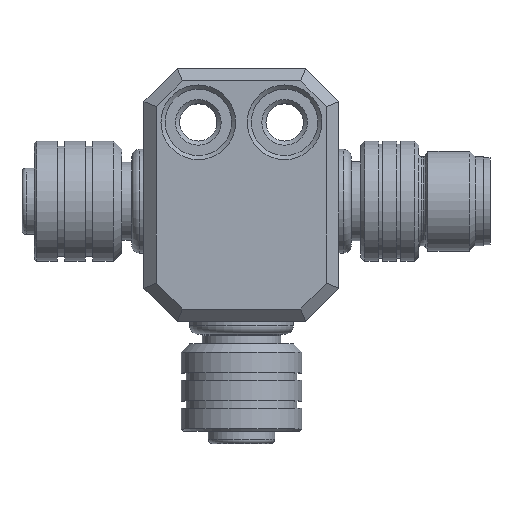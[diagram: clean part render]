
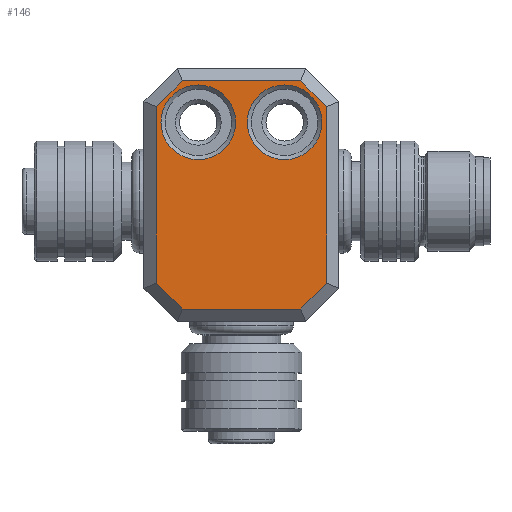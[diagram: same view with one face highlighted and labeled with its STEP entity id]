
A CAD part, top view. The second image highlights one B-rep face of the part: STEP entity #146.
In plain terms, the highlighted planar face has unit normal (0, 0, 1).
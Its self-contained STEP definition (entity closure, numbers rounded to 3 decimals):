
#146 = ADVANCED_FACE( '', ( #415, #416, #417 ), #418, .T. );
#415 = FACE_BOUND( '', #805, .T. );
#416 = FACE_OUTER_BOUND( '', #806, .T. );
#417 = FACE_BOUND( '', #807, .T. );
#418 = PLANE( '', #808 );
#805 = EDGE_LOOP( '', ( #1401 ) );
#806 = EDGE_LOOP( '', ( #1402, #1403, #1404, #1405, #1406, #1407, #1408, #1409 ) );
#807 = EDGE_LOOP( '', ( #1410 ) );
#808 = AXIS2_PLACEMENT_3D( '', #1411, #1412, #1413 );
#1401 = ORIENTED_EDGE( '', *, *, #1886, .F. );
#1402 = ORIENTED_EDGE( '', *, *, #1933, .T. );
#1403 = ORIENTED_EDGE( '', *, *, #1934, .T. );
#1404 = ORIENTED_EDGE( '', *, *, #1935, .T. );
#1405 = ORIENTED_EDGE( '', *, *, #1936, .T. );
#1406 = ORIENTED_EDGE( '', *, *, #1937, .T. );
#1407 = ORIENTED_EDGE( '', *, *, #1938, .T. );
#1408 = ORIENTED_EDGE( '', *, *, #1939, .T. );
#1409 = ORIENTED_EDGE( '', *, *, #1931, .T. );
#1410 = ORIENTED_EDGE( '', *, *, #1876, .F. );
#1411 = CARTESIAN_POINT( '', ( 0., 0., 8.5 ) );
#1412 = DIRECTION( '', ( 0., 0., 1. ) );
#1413 = DIRECTION( '', ( 1., 0., 0. ) );
#1876 = EDGE_CURVE( '', #2117, #2117, #2118, .T. );
#1886 = EDGE_CURVE( '', #2137, #2137, #2138, .T. );
#1931 = EDGE_CURVE( '', #2227, #2225, #2228, .F. );
#1933 = EDGE_CURVE( '', #2225, #2230, #2231, .F. );
#1934 = EDGE_CURVE( '', #2230, #2232, #2233, .F. );
#1935 = EDGE_CURVE( '', #2232, #2234, #2235, .F. );
#1936 = EDGE_CURVE( '', #2234, #2236, #2237, .F. );
#1937 = EDGE_CURVE( '', #2236, #2238, #2239, .F. );
#1938 = EDGE_CURVE( '', #2238, #2240, #2241, .F. );
#1939 = EDGE_CURVE( '', #2240, #2227, #2242, .F. );
#2117 = VERTEX_POINT( '', #2527 );
#2118 = CIRCLE( '', #2528, 4.5 );
#2137 = VERTEX_POINT( '', #2547 );
#2138 = CIRCLE( '', #2548, 4.5 );
#2225 = VERTEX_POINT( '', #2640 );
#2227 = VERTEX_POINT( '', #2643 );
#2228 = LINE( '', #2644, #2645 );
#2230 = VERTEX_POINT( '', #2648 );
#2231 = LINE( '', #2649, #2650 );
#2232 = VERTEX_POINT( '', #2651 );
#2233 = LINE( '', #2652, #2653 );
#2234 = VERTEX_POINT( '', #2654 );
#2235 = LINE( '', #2655, #2656 );
#2236 = VERTEX_POINT( '', #2657 );
#2237 = LINE( '', #2658, #2659 );
#2238 = VERTEX_POINT( '', #2660 );
#2239 = LINE( '', #2661, #2662 );
#2240 = VERTEX_POINT( '', #2663 );
#2241 = LINE( '', #2664, #2665 );
#2242 = LINE( '', #2666, #2667 );
#2527 = CARTESIAN_POINT( '', ( -0.7, 9.5, 8.5 ) );
#2528 = AXIS2_PLACEMENT_3D( '', #2941, #2942, #2943 );
#2547 = CARTESIAN_POINT( '', ( 9.7, 9.5, 8.5 ) );
#2548 = AXIS2_PLACEMENT_3D( '', #2971, #2972, #2973 );
#2640 = CARTESIAN_POINT( '', ( -7.129, 14.5, 8.5 ) );
#2643 = CARTESIAN_POINT( '', ( 7.129, 14.5, 8.5 ) );
#2644 = CARTESIAN_POINT( '', ( 7.75, 14.5, 8.5 ) );
#2645 = VECTOR( '', #3094, 1000. );
#2648 = CARTESIAN_POINT( '', ( -10.25, 11.379, 8.5 ) );
#2649 = CARTESIAN_POINT( '', ( -6.689, 14.939, 8.5 ) );
#2650 = VECTOR( '', #3096, 1000. );
#2651 = CARTESIAN_POINT( '', ( -10.25, -9.879, 8.5 ) );
#2652 = CARTESIAN_POINT( '', ( -10.25, 12., 8.5 ) );
#2653 = VECTOR( '', #3097, 1000. );
#2654 = CARTESIAN_POINT( '', ( -7.129, -13., 8.5 ) );
#2655 = CARTESIAN_POINT( '', ( -10.689, -9.439, 8.5 ) );
#2656 = VECTOR( '', #3098, 1000. );
#2657 = CARTESIAN_POINT( '', ( 7.129, -13., 8.5 ) );
#2658 = CARTESIAN_POINT( '', ( -7.75, -13., 8.5 ) );
#2659 = VECTOR( '', #3099, 1000. );
#2660 = CARTESIAN_POINT( '', ( 10.25, -9.879, 8.5 ) );
#2661 = CARTESIAN_POINT( '', ( 6.689, -13.439, 8.5 ) );
#2662 = VECTOR( '', #3100, 1000. );
#2663 = CARTESIAN_POINT( '', ( 10.25, 11.379, 8.5 ) );
#2664 = CARTESIAN_POINT( '', ( 10.25, -10.5, 8.5 ) );
#2665 = VECTOR( '', #3101, 1000. );
#2666 = CARTESIAN_POINT( '', ( 10.689, 10.939, 8.5 ) );
#2667 = VECTOR( '', #3102, 1000. );
#2941 = CARTESIAN_POINT( '', ( -5.2, 9.5, 8.5 ) );
#2942 = DIRECTION( '', ( 0., 0., 1. ) );
#2943 = DIRECTION( '', ( 1., 0., 0. ) );
#2971 = CARTESIAN_POINT( '', ( 5.2, 9.5, 8.5 ) );
#2972 = DIRECTION( '', ( 0., 0., 1. ) );
#2973 = DIRECTION( '', ( 1., 0., 0. ) );
#3094 = DIRECTION( '', ( 1., 0., 0. ) );
#3096 = DIRECTION( '', ( 0.707, 0.707, 0. ) );
#3097 = DIRECTION( '', ( 0., 1., 0. ) );
#3098 = DIRECTION( '', ( -0.707, 0.707, 0. ) );
#3099 = DIRECTION( '', ( -1., 0., 0. ) );
#3100 = DIRECTION( '', ( -0.707, -0.707, 0. ) );
#3101 = DIRECTION( '', ( 0., -1., 0. ) );
#3102 = DIRECTION( '', ( 0.707, -0.707, 0. ) );
